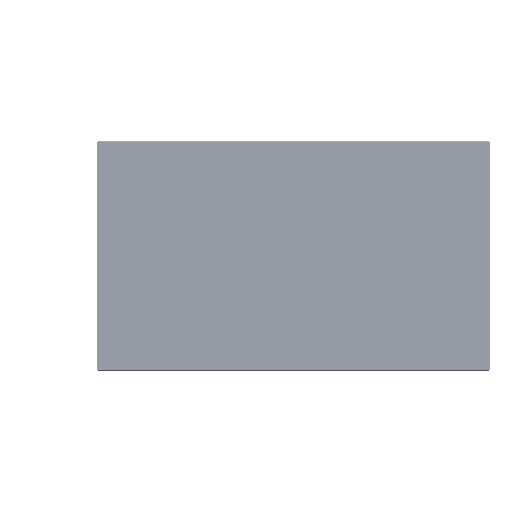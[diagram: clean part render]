
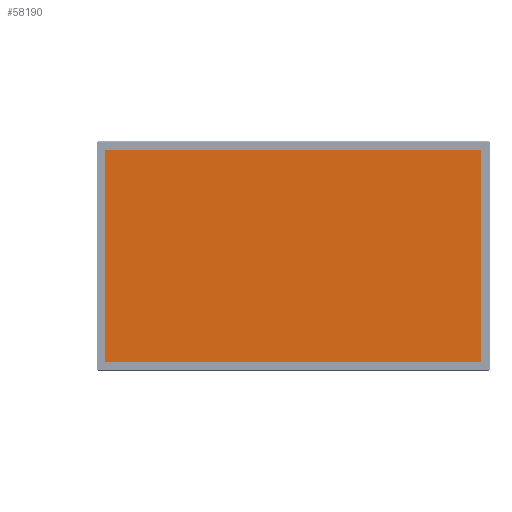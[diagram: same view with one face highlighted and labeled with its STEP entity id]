
A CAD part, top view. The second image highlights one B-rep face of the part: STEP entity #58190.
In plain terms, the highlighted planar face has unit normal (0, 0, 1) as drawn and (0, 1, 0) by its records, which use the part's own axes.
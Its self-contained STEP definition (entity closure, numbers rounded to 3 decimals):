
#58190=ADVANCED_FACE('',(#99794),#80677,.F.);
#80677=PLANE('',#564827);
#99794=FACE_OUTER_BOUND('',#128269,.T.);
#128269=EDGE_LOOP('',(#247383,#247384,#247385,#247386));
#247383=ORIENTED_EDGE('',*,*,#410093,.T.);
#247384=ORIENTED_EDGE('',*,*,#410099,.T.);
#247385=ORIENTED_EDGE('',*,*,#410097,.T.);
#247386=ORIENTED_EDGE('',*,*,#410095,.T.);
#345203=VERTEX_POINT('',#904147);
#345204=VERTEX_POINT('',#904149);
#345205=VERTEX_POINT('',#904153);
#345206=VERTEX_POINT('',#904157);
#410093=EDGE_CURVE('',#345204,#345203,#474116,.T.);
#410095=EDGE_CURVE('',#345205,#345204,#474118,.T.);
#410097=EDGE_CURVE('',#345206,#345205,#474120,.T.);
#410099=EDGE_CURVE('',#345203,#345206,#474122,.T.);
#474116=LINE('',#904148,#521372);
#474118=LINE('',#904152,#521374);
#474120=LINE('',#904156,#521376);
#474122=LINE('',#904160,#521378);
#521372=VECTOR('',#662815,1.);
#521374=VECTOR('',#662819,1.);
#521376=VECTOR('',#662823,1.);
#521378=VECTOR('',#662827,1.);
#564827=AXIS2_PLACEMENT_3D('',#904162,#662830,#662831);
#662815=DIRECTION('',(0.,0.,-1.));
#662819=DIRECTION('',(1.,0.,0.));
#662823=DIRECTION('',(0.,0.,1.));
#662827=DIRECTION('',(-1.,0.,0.));
#662830=DIRECTION('',(0.,-1.,0.));
#662831=DIRECTION('',(1.,0.,0.));
#904147=CARTESIAN_POINT('',(549.4,6.2,-349.075));
#904148=CARTESIAN_POINT('',(549.4,6.2,-347.58));
#904149=CARTESIAN_POINT('',(549.4,6.2,270.325));
#904152=CARTESIAN_POINT('',(547.92,6.2,270.325));
#904153=CARTESIAN_POINT('',(-549.4,6.2,270.325));
#904156=CARTESIAN_POINT('',(-549.4,6.2,268.83));
#904157=CARTESIAN_POINT('',(-549.4,6.2,-349.075));
#904160=CARTESIAN_POINT('',(-547.92,6.2,-349.075));
#904162=CARTESIAN_POINT('',(5677.649,6.2,-4079.696));
